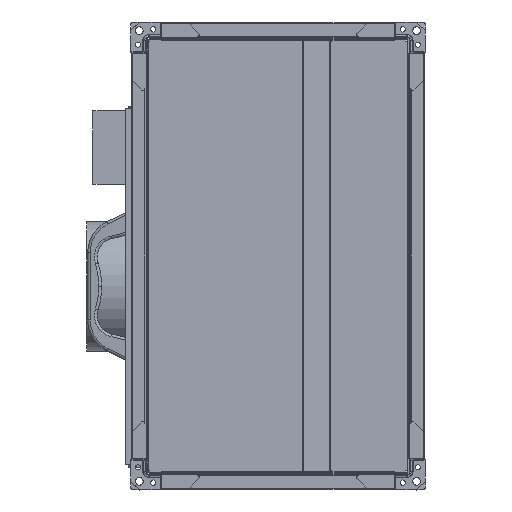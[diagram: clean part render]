
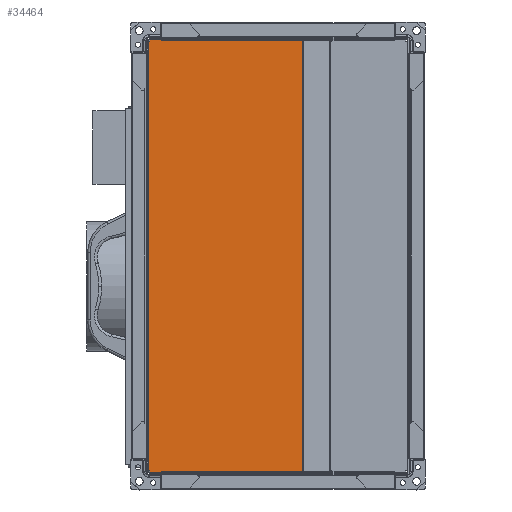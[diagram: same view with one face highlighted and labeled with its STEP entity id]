
A CAD part, left-side view. The second image highlights one B-rep face of the part: STEP entity #34464.
In plain terms, the highlighted planar face has unit normal (-1, 0, 0).
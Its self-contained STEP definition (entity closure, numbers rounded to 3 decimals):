
#3835=FACE_OUTER_BOUND('',#5689,.T.);
#5689=EDGE_LOOP('',(#29862,#29863,#29864,#29865,#29866,#29867,#29868,#29869,
#29870,#29871,#29872,#29873));
#9324=LINE('',#61226,#12402);
#9327=LINE('',#61233,#12405);
#9339=LINE('',#61258,#12417);
#9342=LINE('',#61262,#12420);
#9364=LINE('',#61325,#12442);
#9366=LINE('',#61328,#12444);
#9367=LINE('',#61330,#12445);
#9368=LINE('',#61332,#12446);
#9369=LINE('',#61334,#12447);
#9370=LINE('',#61336,#12448);
#9371=LINE('',#61337,#12449);
#9372=LINE('',#61338,#12450);
#12402=VECTOR('',#44472,10.);
#12405=VECTOR('',#44477,10.);
#12417=VECTOR('',#44495,10.);
#12420=VECTOR('',#44500,10.);
#12442=VECTOR('',#44556,10.);
#12444=VECTOR('',#44560,10.);
#12445=VECTOR('',#44561,10.);
#12446=VECTOR('',#44562,10.);
#12447=VECTOR('',#44563,10.);
#12448=VECTOR('',#44564,10.);
#12449=VECTOR('',#44565,10.);
#12450=VECTOR('',#44566,10.);
#15673=VERTEX_POINT('',#61223);
#15674=VERTEX_POINT('',#61225);
#15676=VERTEX_POINT('',#61231);
#15677=VERTEX_POINT('',#61232);
#15686=VERTEX_POINT('',#61255);
#15687=VERTEX_POINT('',#61257);
#15710=VERTEX_POINT('',#61322);
#15711=VERTEX_POINT('',#61324);
#15712=VERTEX_POINT('',#61329);
#15713=VERTEX_POINT('',#61331);
#15714=VERTEX_POINT('',#61333);
#15715=VERTEX_POINT('',#61335);
#20455=EDGE_CURVE('',#15674,#15673,#9324,.T.);
#20458=EDGE_CURVE('',#15676,#15677,#9327,.T.);
#20470=EDGE_CURVE('',#15686,#15687,#9339,.T.);
#20473=EDGE_CURVE('',#15676,#15687,#9342,.T.);
#20503=EDGE_CURVE('',#15710,#15711,#9364,.T.);
#20505=EDGE_CURVE('',#15673,#15711,#9366,.T.);
#20506=EDGE_CURVE('',#15712,#15710,#9367,.T.);
#20507=EDGE_CURVE('',#15713,#15712,#9368,.T.);
#20508=EDGE_CURVE('',#15714,#15713,#9369,.T.);
#20509=EDGE_CURVE('',#15715,#15714,#9370,.T.);
#20510=EDGE_CURVE('',#15677,#15715,#9371,.T.);
#20511=EDGE_CURVE('',#15674,#15686,#9372,.T.);
#29862=ORIENTED_EDGE('',*,*,#20455,.T.);
#29863=ORIENTED_EDGE('',*,*,#20505,.T.);
#29864=ORIENTED_EDGE('',*,*,#20503,.F.);
#29865=ORIENTED_EDGE('',*,*,#20506,.F.);
#29866=ORIENTED_EDGE('',*,*,#20507,.F.);
#29867=ORIENTED_EDGE('',*,*,#20508,.F.);
#29868=ORIENTED_EDGE('',*,*,#20509,.F.);
#29869=ORIENTED_EDGE('',*,*,#20510,.F.);
#29870=ORIENTED_EDGE('',*,*,#20458,.F.);
#29871=ORIENTED_EDGE('',*,*,#20473,.T.);
#29872=ORIENTED_EDGE('',*,*,#20470,.F.);
#29873=ORIENTED_EDGE('',*,*,#20511,.F.);
#31509=PLANE('',#36922);
#34464=ADVANCED_FACE('',(#3835),#31509,.F.);
#36922=AXIS2_PLACEMENT_3D('',#61327,#44558,#44559);
#44472=DIRECTION('',(0.,-1.,0.));
#44477=DIRECTION('',(0.,1.,0.));
#44495=DIRECTION('',(0.,1.,0.));
#44500=DIRECTION('',(0.,0.,-1.));
#44556=DIRECTION('',(0.,-1.,0.));
#44558=DIRECTION('center_axis',(1.,0.,0.));
#44559=DIRECTION('ref_axis',(0.,-1.,0.));
#44560=DIRECTION('',(0.,0.,1.));
#44561=DIRECTION('',(0.,0.,-1.));
#44562=DIRECTION('',(0.,-1.,0.));
#44563=DIRECTION('',(0.,0.,1.));
#44564=DIRECTION('',(0.,-1.,0.));
#44565=DIRECTION('',(0.,0.,1.));
#44566=DIRECTION('',(0.,0.,-1.));
#61223=CARTESIAN_POINT('',(16.717,-192.522,-13.5));
#61225=CARTESIAN_POINT('',(16.717,-191.694,-13.5));
#61226=CARTESIAN_POINT('',(16.717,-147.722,-13.5));
#61231=CARTESIAN_POINT('',(16.717,-15.522,-13.5));
#61232=CARTESIAN_POINT('',(16.717,-13.522,-13.5));
#61233=CARTESIAN_POINT('',(16.717,-14.546,-13.5));
#61255=CARTESIAN_POINT('',(16.717,-191.694,-15.5));
#61257=CARTESIAN_POINT('',(16.717,-15.522,-15.5));
#61258=CARTESIAN_POINT('',(16.717,-103.391,-15.5));
#61262=CARTESIAN_POINT('',(16.717,-15.522,109.25));
#61322=CARTESIAN_POINT('',(16.717,-191.694,481.5));
#61324=CARTESIAN_POINT('',(16.717,-192.522,481.5));
#61325=CARTESIAN_POINT('',(16.717,-147.722,481.5));
#61327=CARTESIAN_POINT('Origin',(16.717,-103.173,234.));
#61328=CARTESIAN_POINT('',(16.717,-192.522,234.));
#61329=CARTESIAN_POINT('',(16.717,-191.694,483.5));
#61330=CARTESIAN_POINT('',(16.717,-191.694,358.75));
#61331=CARTESIAN_POINT('',(16.717,-15.522,483.5));
#61332=CARTESIAN_POINT('',(16.717,-103.391,483.5));
#61333=CARTESIAN_POINT('',(16.717,-15.522,481.5));
#61334=CARTESIAN_POINT('',(16.717,-15.522,358.25));
#61335=CARTESIAN_POINT('',(16.717,-13.522,481.5));
#61336=CARTESIAN_POINT('',(16.717,-58.872,481.5));
#61337=CARTESIAN_POINT('',(16.717,-13.522,357.75));
#61338=CARTESIAN_POINT('',(16.717,-191.694,109.75));
